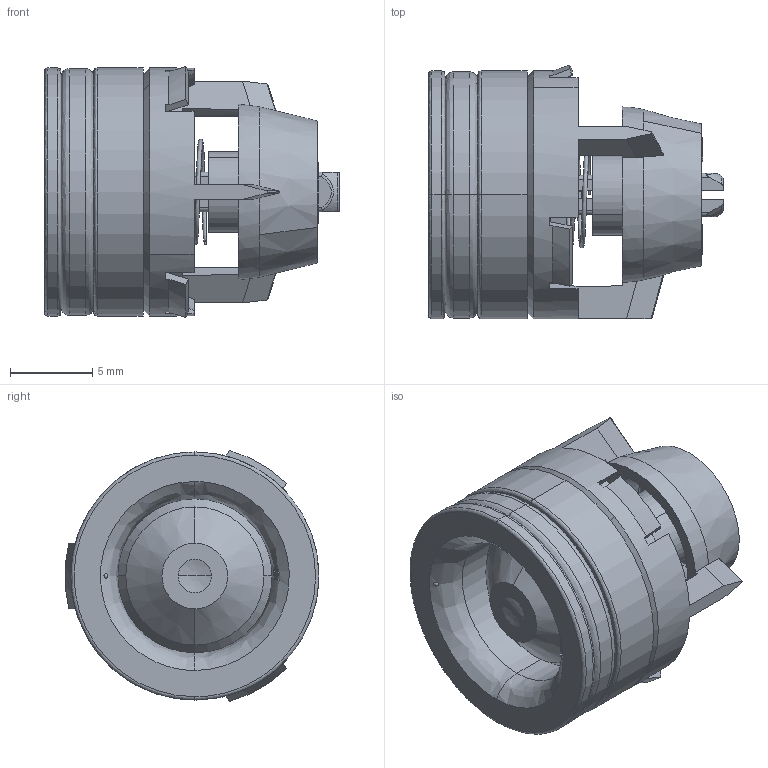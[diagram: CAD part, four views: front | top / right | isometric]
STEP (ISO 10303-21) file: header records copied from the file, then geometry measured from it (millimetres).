
FILE_DESCRIPTION (( 'STEP AP203' ), '1' );
FILE_NAME ('I0015-W149015620.STEP', '2020-04-08T14:32:22', ( '' ), ( '' ), 'SwSTEP 2.0', 'SolidWorks 2017', '' );
FILE_SCHEMA (( 'CONFIG_CONTROL_DESIGN' ));
Length unit declared in the file: metre
Products named in the file (7): Pièce28^ASM_FRVIR_0000002701; PRT_FRVIR_0000008061; FUR_FRVIR_0000001084; I0015-W149015620; PRT_FRVIR_0000008052_DéfautSpl(monté); PRT_FRVIR_0000008072; PRT_FRVIR_0000008075
Assembly tree (6 placements, depth 2):
  I0015-W149015620
    PRT_FRVIR_0000008061
    PRT_FRVIR_0000008072
    PRT_FRVIR_0000008052_DéfautSpl(monté)
    FUR_FRVIR_0000001084
    PRT_FRVIR_0000008075
    Pièce28^ASM_FRVIR_0000002701
Bounding box: 17.95 x 15.45 x 15.28 mm (x, y, z)
Volume: 1182.5 mm3; surface area: 2955.3 mm2
Topology: 6 solids, 6 shells, 322 faces, 822 edges, 530 vertices
Faces by surface type: plane 128, bspline 86, cylinder 56, cone 46, torus 6
Entity records: 14893 total; most frequent: CARTESIAN_POINT 7054, ORIENTED_EDGE 1640, DIRECTION 1265, EDGE_CURVE 820, VERTEX_POINT 530, AXIS2_PLACEMENT_3D 457, EDGE_LOOP 356, VECTOR 351
